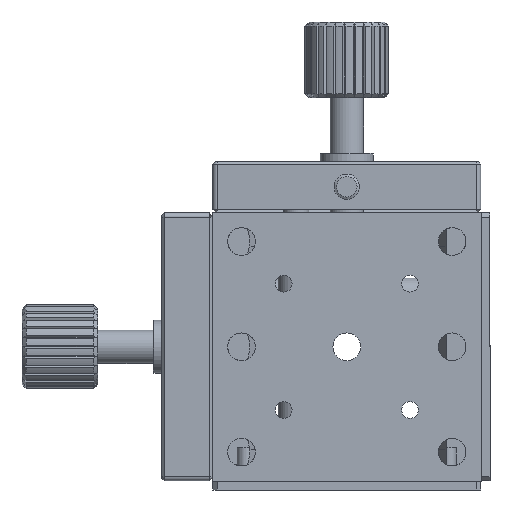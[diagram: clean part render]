
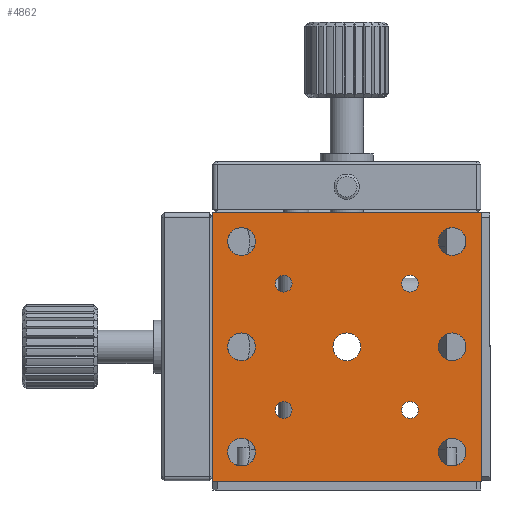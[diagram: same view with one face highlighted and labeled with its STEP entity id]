
A CAD part, front view. The second image highlights one B-rep face of the part: STEP entity #4862.
In plain terms, the highlighted planar face has unit normal (0, -1, 0).
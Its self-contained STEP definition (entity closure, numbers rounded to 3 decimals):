
#4 = EDGE_CURVE ( 'NONE', #8750, #8750, #5128, .T. ) ;
#7 = EDGE_CURVE ( 'NONE', #6764, #6402, #5127, .T. ) ;
#10 = EDGE_CURVE ( 'NONE', #8736, #8736, #5124, .T. ) ;
#11 = EDGE_CURVE ( 'NONE', #8735, #8735, #5119, .T. ) ;
#16 = EDGE_CURVE ( 'NONE', #8734, #8734, #5117, .T. ) ;
#17 = EDGE_CURVE ( 'NONE', #8733, #8733, #5114, .T. ) ;
#20 = EDGE_CURVE ( 'NONE', #8731, #8731, #5111, .T. ) ;
#22 = EDGE_CURVE ( 'NONE', #8730, #8730, #5115, .T. ) ;
#24 = EDGE_CURVE ( 'NONE', #8728, #8728, #5107, .T. ) ;
#26 = EDGE_CURVE ( 'NONE', #8726, #8726, #5105, .T. ) ;
#29 = EDGE_CURVE ( 'NONE', #8723, #8723, #5102, .T. ) ;
#30 = EDGE_CURVE ( 'NONE', #6398, #6717, #5112, .T. ) ;
#31 = EDGE_CURVE ( 'NONE', #6402, #6717, #5116, .T. ) ;
#33 = EDGE_CURVE ( 'NONE', #6764, #6398, #5099, .T. ) ;
#634 = EDGE_CURVE ( 'NONE', #8630, #8630, #12324, .T. ) ;
#840 = AXIS2_PLACEMENT_3D ( 'NONE', #10066, #10061, #10067 ) ;
#1107 = CARTESIAN_POINT ( 'NONE',  ( -16.289, -11.676, -10.715 ) ) ;
#1116 = CARTESIAN_POINT ( 'NONE',  ( 8.711, -11.676, 1.785 ) ) ;
#1117 = CARTESIAN_POINT ( 'NONE',  ( -16.289, -11.676, 1.785 ) ) ;
#1118 = CARTESIAN_POINT ( 'NONE',  ( -16.289, -11.676, 14.285 ) ) ;
#1119 = CARTESIAN_POINT ( 'NONE',  ( -3.789, -11.676, 1.785 ) ) ;
#1121 = CARTESIAN_POINT ( 'NONE',  ( 8.711, -11.676, 14.285 ) ) ;
#1122 = CARTESIAN_POINT ( 'NONE',  ( 3.711, -11.676, -6.365 ) ) ;
#1124 = CARTESIAN_POINT ( 'NONE',  ( -11.289, -11.676, -6.365 ) ) ;
#1126 = CARTESIAN_POINT ( 'NONE',  ( -11.289, -11.676, 8.635 ) ) ;
#1129 = CARTESIAN_POINT ( 'NONE',  ( 3.711, -11.676, 8.635 ) ) ;
#1222 = CARTESIAN_POINT ( 'NONE',  ( 8.711, -11.676, -10.715 ) ) ;
#1343 = CARTESIAN_POINT ( 'NONE',  ( -19.789, -11.676, 16.135 ) ) ;
#1347 = DIRECTION ( 'NONE',  ( 0., 0., -1. ) ) ;
#1348 = CARTESIAN_POINT ( 'NONE',  ( 8.711, -11.676, 0.135 ) ) ;
#1349 = DIRECTION ( 'NONE',  ( 0., -1., 0. ) ) ;
#1350 = DIRECTION ( 'NONE',  ( 0., 0., 1. ) ) ;
#1365 = CARTESIAN_POINT ( 'NONE',  ( -16.289, -11.676, -12.365 ) ) ;
#1366 = DIRECTION ( 'NONE',  ( 0., -1., 0. ) ) ;
#1367 = DIRECTION ( 'NONE',  ( 0., 0., 1. ) ) ;
#1369 = CARTESIAN_POINT ( 'NONE',  ( -16.289, -11.676, 0.135 ) ) ;
#1370 = DIRECTION ( 'NONE',  ( 0., -1., 0. ) ) ;
#1371 = DIRECTION ( 'NONE',  ( 0., 0., 1. ) ) ;
#1383 = CARTESIAN_POINT ( 'NONE',  ( -16.289, -11.676, 12.635 ) ) ;
#1384 = DIRECTION ( 'NONE',  ( 0., -1., 0. ) ) ;
#1385 = DIRECTION ( 'NONE',  ( 0., 0., 1. ) ) ;
#1386 = CARTESIAN_POINT ( 'NONE',  ( -3.789, -11.676, 0.135 ) ) ;
#1387 = DIRECTION ( 'NONE',  ( 0., -1., 0. ) ) ;
#1388 = DIRECTION ( 'NONE',  ( 0., 0., 1. ) ) ;
#1395 = CARTESIAN_POINT ( 'NONE',  ( 8.711, -11.676, 12.635 ) ) ;
#1396 = DIRECTION ( 'NONE',  ( 0., -1., 0. ) ) ;
#1397 = DIRECTION ( 'NONE',  ( 0., 0., 1. ) ) ;
#1401 = CARTESIAN_POINT ( 'NONE',  ( 3.711, -11.676, -7.365 ) ) ;
#1402 = DIRECTION ( 'NONE',  ( 0., -1., 0. ) ) ;
#1403 = DIRECTION ( 'NONE',  ( 0., 0., 1. ) ) ;
#1407 = CARTESIAN_POINT ( 'NONE',  ( -11.289, -11.676, -7.365 ) ) ;
#1408 = DIRECTION ( 'NONE',  ( 0., -1., 0. ) ) ;
#1409 = DIRECTION ( 'NONE',  ( 0., 0., 1. ) ) ;
#1413 = CARTESIAN_POINT ( 'NONE',  ( 12.211, -11.676, 16.135 ) ) ;
#1414 = CARTESIAN_POINT ( 'NONE',  ( -11.289, -11.676, 7.635 ) ) ;
#1415 = DIRECTION ( 'NONE',  ( 0., -1., 0. ) ) ;
#1416 = DIRECTION ( 'NONE',  ( 0., 0., 1. ) ) ;
#1417 = DIRECTION ( 'NONE',  ( 1., 0., 0. ) ) ;
#1426 = CARTESIAN_POINT ( 'NONE',  ( 3.711, -11.676, 7.635 ) ) ;
#1427 = DIRECTION ( 'NONE',  ( 0., -1., 0. ) ) ;
#1428 = DIRECTION ( 'NONE',  ( 0., 0., 1. ) ) ;
#1429 = DIRECTION ( 'NONE',  ( 0., 0., -1. ) ) ;
#1430 = CARTESIAN_POINT ( 'NONE',  ( 12.211, -11.676, -15.865 ) ) ;
#1433 = CARTESIAN_POINT ( 'NONE',  ( 12.211, -11.676, 16.135 ) ) ;
#1435 = DIRECTION ( 'NONE',  ( 1., 0., 0. ) ) ;
#3068 = CARTESIAN_POINT ( 'NONE',  ( 12.211, -11.676, 16.135 ) ) ;
#3070 = CARTESIAN_POINT ( 'NONE',  ( -19.789, -11.676, -15.865 ) ) ;
#3839 = EDGE_LOOP ( 'NONE', ( #5247 ) ) ;
#3931 = EDGE_LOOP ( 'NONE', ( #5244, #5243, #5242, #5241 ) ) ;
#3952 = EDGE_LOOP ( 'NONE', ( #5245 ) ) ;
#3968 = EDGE_LOOP ( 'NONE', ( #5253 ) ) ;
#3972 = EDGE_LOOP ( 'NONE', ( #5248 ) ) ;
#3993 = EDGE_LOOP ( 'NONE', ( #5251 ) ) ;
#4156 = EDGE_LOOP ( 'NONE', ( #5240 ) ) ;
#4221 = EDGE_LOOP ( 'NONE', ( #5254 ) ) ;
#4255 = EDGE_LOOP ( 'NONE', ( #5250 ) ) ;
#4348 = EDGE_LOOP ( 'NONE', ( #5249 ) ) ;
#4421 = EDGE_LOOP ( 'NONE', ( #5252 ) ) ;
#4485 = EDGE_LOOP ( 'NONE', ( #5246 ) ) ;
#4862 = ADVANCED_FACE ( 'NONE', ( #9588, #9572, #9582, #9573, #9570, #9574, #9568, #9567, #9566, #9565, #9564, #9563 ), #10064, .F. ) ;
#5098 = VECTOR ( 'NONE', #1435, 1000. ) ;
#5099 = LINE ( 'NONE', #1433, #5098 ) ;
#5100 = VECTOR ( 'NONE', #1429, 1000. ) ;
#5101 = VECTOR ( 'NONE', #1417, 1000. ) ;
#5102 = CIRCLE ( 'NONE', #10797, 1. ) ;
#5105 = CIRCLE ( 'NONE', #10800, 1. ) ;
#5107 = CIRCLE ( 'NONE', #10802, 1. ) ;
#5111 = CIRCLE ( 'NONE', #10806, 1.65 ) ;
#5112 = LINE ( 'NONE', #1413, #5100 ) ;
#5114 = CIRCLE ( 'NONE', #10809, 1.65 ) ;
#5115 = CIRCLE ( 'NONE', #10804, 1. ) ;
#5116 = LINE ( 'NONE', #1430, #5101 ) ;
#5117 = CIRCLE ( 'NONE', #10810, 1.65 ) ;
#5119 = CIRCLE ( 'NONE', #10814, 1.65 ) ;
#5123 = VECTOR ( 'NONE', #1347, 1000. ) ;
#5124 = CIRCLE ( 'NONE', #10815, 1.65 ) ;
#5127 = LINE ( 'NONE', #1343, #5123 ) ;
#5128 = CIRCLE ( 'NONE', #10819, 1.65 ) ;
#5240 = ORIENTED_EDGE ( 'NONE', *, *, #634, .F. ) ;
#5241 = ORIENTED_EDGE ( 'NONE', *, *, #7, .T. ) ;
#5242 = ORIENTED_EDGE ( 'NONE', *, *, #33, .F. ) ;
#5243 = ORIENTED_EDGE ( 'NONE', *, *, #30, .F. ) ;
#5244 = ORIENTED_EDGE ( 'NONE', *, *, #31, .T. ) ;
#5245 = ORIENTED_EDGE ( 'NONE', *, *, #4, .F. ) ;
#5246 = ORIENTED_EDGE ( 'NONE', *, *, #10, .F. ) ;
#5247 = ORIENTED_EDGE ( 'NONE', *, *, #11, .F. ) ;
#5248 = ORIENTED_EDGE ( 'NONE', *, *, #16, .F. ) ;
#5249 = ORIENTED_EDGE ( 'NONE', *, *, #17, .F. ) ;
#5250 = ORIENTED_EDGE ( 'NONE', *, *, #20, .F. ) ;
#5251 = ORIENTED_EDGE ( 'NONE', *, *, #22, .F. ) ;
#5252 = ORIENTED_EDGE ( 'NONE', *, *, #24, .F. ) ;
#5253 = ORIENTED_EDGE ( 'NONE', *, *, #26, .F. ) ;
#5254 = ORIENTED_EDGE ( 'NONE', *, *, #29, .F. ) ;
#6363 = CARTESIAN_POINT ( 'NONE',  ( 8.711, -11.676, -12.365 ) ) ;
#6365 = DIRECTION ( 'NONE',  ( 0., -1., 0. ) ) ;
#6366 = DIRECTION ( 'NONE',  ( 0., 0., 1. ) ) ;
#6398 = VERTEX_POINT ( 'NONE', #3068 ) ;
#6402 = VERTEX_POINT ( 'NONE', #3070 ) ;
#6717 = VERTEX_POINT ( 'NONE', #7912 ) ;
#6764 = VERTEX_POINT ( 'NONE', #7959 ) ;
#7912 = CARTESIAN_POINT ( 'NONE',  ( 12.211, -11.676, -15.865 ) ) ;
#7959 = CARTESIAN_POINT ( 'NONE',  ( -19.789, -11.676, 16.135 ) ) ;
#8471 = AXIS2_PLACEMENT_3D ( 'NONE', #6363, #6365, #6366 ) ;
#8630 = VERTEX_POINT ( 'NONE', #1222 ) ;
#8723 = VERTEX_POINT ( 'NONE', #1129 ) ;
#8726 = VERTEX_POINT ( 'NONE', #1126 ) ;
#8728 = VERTEX_POINT ( 'NONE', #1124 ) ;
#8730 = VERTEX_POINT ( 'NONE', #1122 ) ;
#8731 = VERTEX_POINT ( 'NONE', #1121 ) ;
#8733 = VERTEX_POINT ( 'NONE', #1119 ) ;
#8734 = VERTEX_POINT ( 'NONE', #1118 ) ;
#8735 = VERTEX_POINT ( 'NONE', #1117 ) ;
#8736 = VERTEX_POINT ( 'NONE', #1107 ) ;
#8750 = VERTEX_POINT ( 'NONE', #1116 ) ;
#9563 = FACE_BOUND ( 'NONE', #4156, .T. ) ;
#9564 = FACE_OUTER_BOUND ( 'NONE', #3931, .T. ) ;
#9565 = FACE_BOUND ( 'NONE', #3952, .T. ) ;
#9566 = FACE_BOUND ( 'NONE', #4485, .T. ) ;
#9567 = FACE_BOUND ( 'NONE', #3839, .T. ) ;
#9568 = FACE_BOUND ( 'NONE', #3972, .T. ) ;
#9570 = FACE_BOUND ( 'NONE', #4255, .T. ) ;
#9572 = FACE_BOUND ( 'NONE', #3968, .T. ) ;
#9573 = FACE_BOUND ( 'NONE', #3993, .T. ) ;
#9574 = FACE_BOUND ( 'NONE', #4348, .T. ) ;
#9582 = FACE_BOUND ( 'NONE', #4421, .T. ) ;
#9588 = FACE_BOUND ( 'NONE', #4221, .T. ) ;
#10061 = DIRECTION ( 'NONE',  ( 0., 1., 0. ) ) ;
#10064 = PLANE ( 'NONE',  #840 ) ;
#10066 = CARTESIAN_POINT ( 'NONE',  ( 12.211, -11.676, 16.135 ) ) ;
#10067 = DIRECTION ( 'NONE',  ( 0., 0., -1. ) ) ;
#10797 = AXIS2_PLACEMENT_3D ( 'NONE', #1426, #1427, #1428 ) ;
#10800 = AXIS2_PLACEMENT_3D ( 'NONE', #1414, #1415, #1416 ) ;
#10802 = AXIS2_PLACEMENT_3D ( 'NONE', #1407, #1408, #1409 ) ;
#10804 = AXIS2_PLACEMENT_3D ( 'NONE', #1401, #1402, #1403 ) ;
#10806 = AXIS2_PLACEMENT_3D ( 'NONE', #1395, #1396, #1397 ) ;
#10809 = AXIS2_PLACEMENT_3D ( 'NONE', #1386, #1387, #1388 ) ;
#10810 = AXIS2_PLACEMENT_3D ( 'NONE', #1383, #1384, #1385 ) ;
#10814 = AXIS2_PLACEMENT_3D ( 'NONE', #1369, #1370, #1371 ) ;
#10815 = AXIS2_PLACEMENT_3D ( 'NONE', #1365, #1366, #1367 ) ;
#10819 = AXIS2_PLACEMENT_3D ( 'NONE', #1348, #1349, #1350 ) ;
#12324 = CIRCLE ( 'NONE', #8471, 1.65 ) ;
